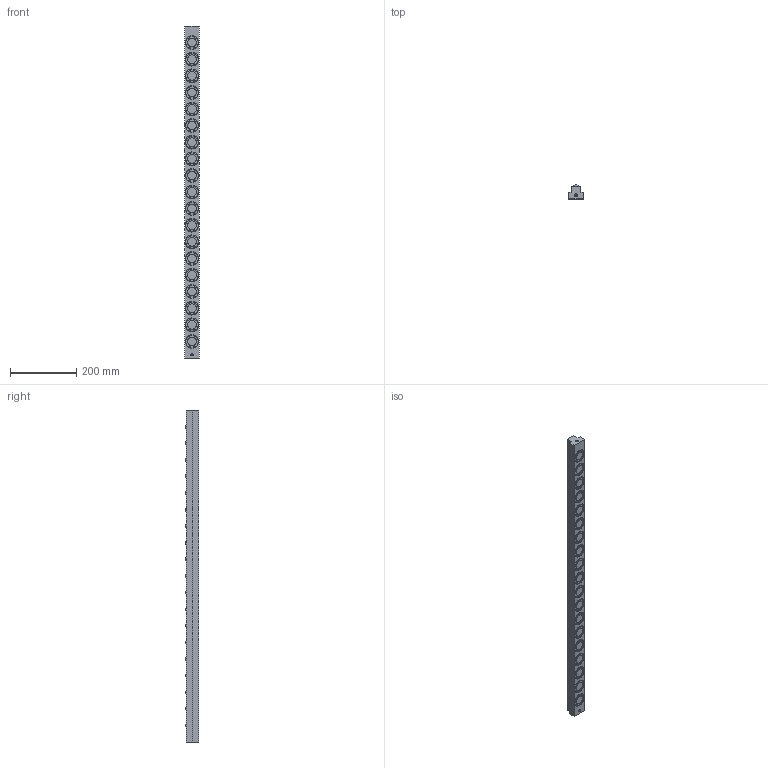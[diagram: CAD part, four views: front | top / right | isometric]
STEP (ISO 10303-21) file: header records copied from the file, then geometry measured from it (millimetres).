
FILE_DESCRIPTION (( 'STEP AP203' ), '1' );
FILE_NAME ('PVL50T-19.STEP', '2015-12-24T09:08:49', ( '' ), ( '' ), 'SwSTEP 2.0', 'SolidWorks 2013', '' );
FILE_SCHEMA (( 'CONFIG_CONTROL_DESIGN' ));
Length unit declared in the file: millimetre
Products named in the file (1): PVL50T-19
Bounding box: 45 x 42 x 1000 mm (x, y, z)
Volume: 1350633.3 mm3; surface area: 199193.6 mm2
Topology: 1 solids, 1 shells, 611 faces, 1439 edges, 964 vertices
Faces by surface type: cylinder 386, plane 183, sphere 38, cone 4
Entity records: 18126 total; most frequent: DIRECTION 3551, CARTESIAN_POINT 3013, ORIENTED_EDGE 2874, AXIS2_PLACEMENT_3D 1502, EDGE_CURVE 1437, VERTEX_POINT 964, CIRCLE 890, EDGE_LOOP 749
